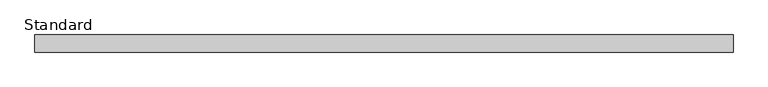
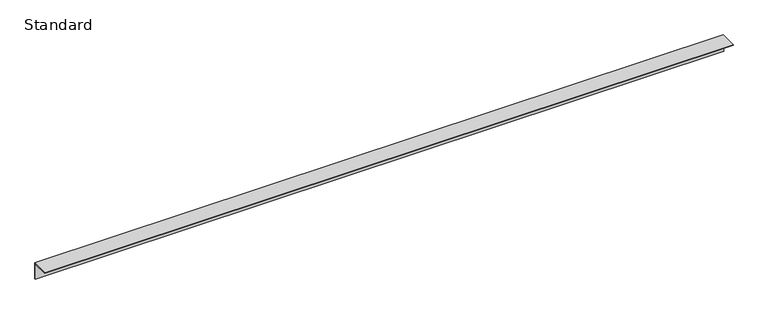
"""IFC4 building model written with IfcOpenShell, lengths in millimetres: furniture geometry, X_Vanity-Angle-Duracube-Bench Support : Standard."""

from ifc_helpers import new_model, si_unit, frame, origin, place, context, project, spatial, polyline, outline, extrude, source, transform, mapped, element, save


def standard_ef5d929b(model_context):
    return source(origin(), model_context, "Body", "SweptSolid", [
        extrude(outline(polyline([(0.0, 0.0), (-2.0, 0.0), (-2.0, 38.0), (-40.0, 38.0), (-40.0, 40.0), (0.0, 40.0), (0.0, 0.0)])), frame((-768.2996736, 0.0, 0.0), z_axis=(1.0, 0.0, 0.0), x_axis=(0.0, 1.0, 0.0)), (0.0, 0.0, 1.0), 1626.0),
    ])


if __name__ == "__main__":
    model = new_model("IFC4")
    model_context = context("Model", 3, world=origin())
    ifc_project = project(units=[si_unit("LENGTHUNIT", "METRE", prefix="MILLI")], contexts=[model_context])
    site = spatial("IfcSite", under=ifc_project)
    building = spatial("IfcBuilding", under=site)
    placement = place(None, origin())
    standard_shape = standard_ef5d929b(model_context)
    element("IfcFurniture", 1, ObjectType="X_Vanity-Angle-Duracube-Bench Support : Standard", at=placement, inside=building, context=model_context, shape_type="MappedRepresentation", body=[
        mapped(standard_shape, transform((0.0, 0.0, 0.0), x_axis=(1.0, 0.0, 0.0), y_axis=(0.0, 1.0, 0.0), z_axis=(0.0, 0.0, 1.0))),
    ])
    save(model, "model.ifc")
